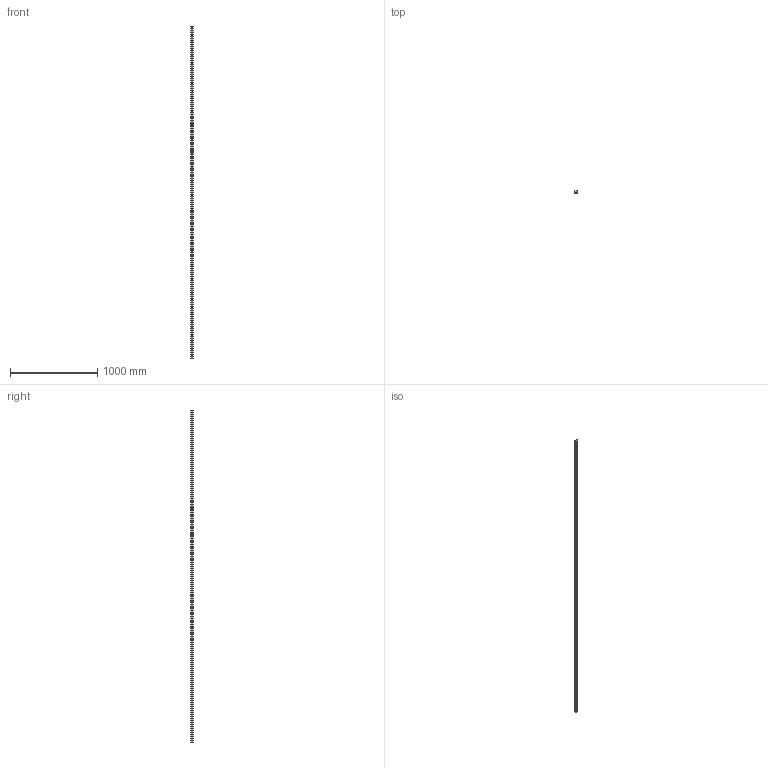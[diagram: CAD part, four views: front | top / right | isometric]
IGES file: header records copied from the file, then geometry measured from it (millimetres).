
Start section: SolidWorks IGES file using analytic representation for surfaces
Global section: file name: C:\Users\IanO\Desktop\Temp File\GENERAL\L1016_v2\L1016.RF35_v2\L1016.RF35_v2_20190612_IGES\L1016.RF35-3800.igs; native system: SolidWorks 2017; preprocessor: SolidWorks 2017; author: IanO; date: 190613.173447; units: millimetre
Bounding box: 34 x 26 x 3800 mm (x, y, z)
Surface area: 494515.6 mm2 (no closed solid volume)
Topology: 0 solids, 0 shells, 362 faces, 5928 edges, 5832 vertices
Faces by surface type: revolution 292, bspline 70
